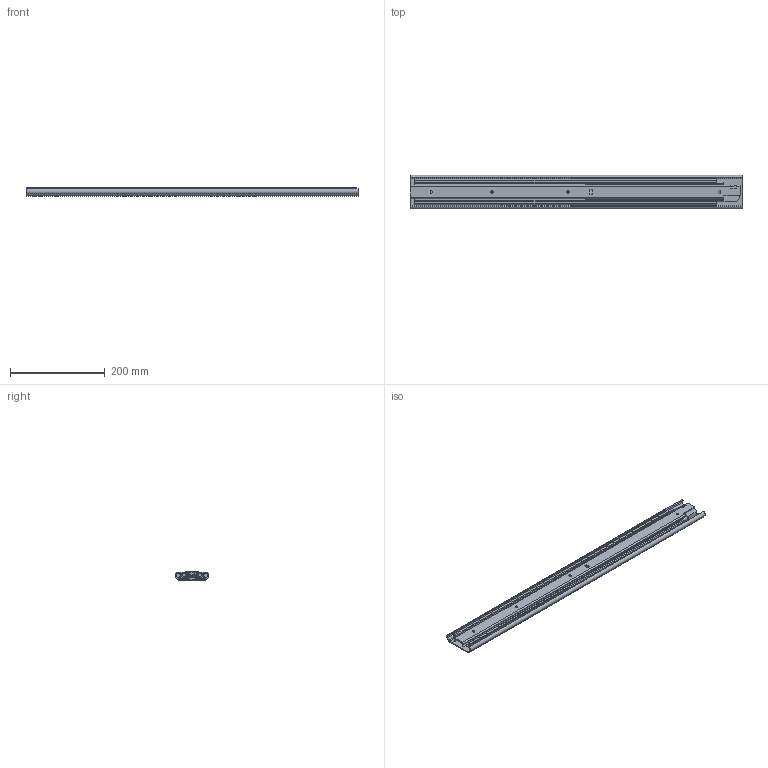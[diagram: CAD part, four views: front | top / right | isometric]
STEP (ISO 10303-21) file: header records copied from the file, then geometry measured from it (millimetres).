
FILE_DESCRIPTION( ( 'STEP AP203' ), '1' );
FILE_NAME( 'C:/Temp/Ganter_Step_05_03_2020/data/3_8/gn1432/Telescopic slide GN 1432-700-B-2-ZB (0).stp', '2020-03-12T15:26:39', ( 'License CC BY-ND 4.0' ), ( 'CADENAS' ), ' ', 'PARTsolutions', ' ' );
FILE_SCHEMA( ( 'CONFIG_CONTROL_DESIGN' ) );
Length unit declared in the file: millimetre
Products named in the file (4): Telescopic slide GN 1432-700-B-2-ZB (0); _Telescopic slide GN 1432-700-B-2-ZB (0)-1; _Telescopic slide GN 1432-700-B-2-ZB (0)-2; _Telescopic slide GN 1432-700-B-2-ZB (0)-3
Assembly tree (3 placements, depth 2):
  Telescopic slide GN 1432-700-B-2-ZB (0)
    _Telescopic slide GN 1432-700-B-2-ZB (0)-1
    _Telescopic slide GN 1432-700-B-2-ZB (0)-2
    _Telescopic slide GN 1432-700-B-2-ZB (0)-3
Bounding box: 700 x 70.88 x 18.4 mm (x, y, z)
Volume: 409197.2 mm3; surface area: 382715.3 mm2
Topology: 3 solids, 3 shells, 305 faces, 887 edges, 582 vertices
Faces by surface type: plane 179, cylinder 118, cone 8
Full cylindrical faces by diameter (mm): 5 x4, 6.5 x4, 11 x3
Entity records: 10162 total; most frequent: CARTESIAN_POINT 1773, DIRECTION 1731, ORIENTED_EDGE 1730, EDGE_CURVE 865, LINE 605, VECTOR 605, VERTEX_POINT 579, AXIS2_PLACEMENT_3D 563
